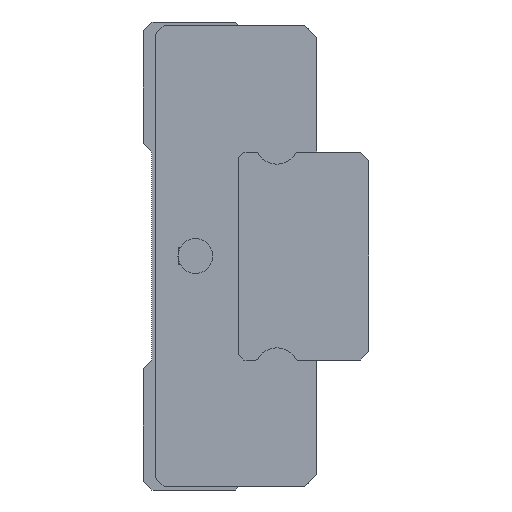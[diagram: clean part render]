
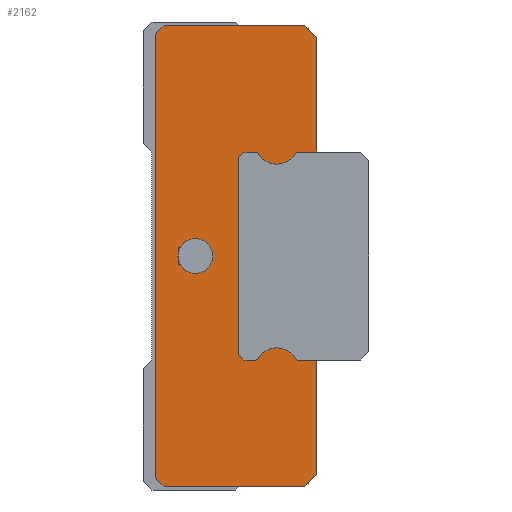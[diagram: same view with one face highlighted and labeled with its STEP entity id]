
A CAD part, left-side view. The second image highlights one B-rep face of the part: STEP entity #2162.
In plain terms, the highlighted planar face has unit normal (-1, 0, 0).
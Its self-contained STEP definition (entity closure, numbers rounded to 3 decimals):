
#92=CIRCLE('',#2370,1.);
#93=CIRCLE('',#2371,0.15);
#94=CIRCLE('',#2372,1.25);
#95=CIRCLE('',#2373,0.15);
#96=CIRCLE('',#2374,0.15);
#97=CIRCLE('',#2375,1.25);
#98=CIRCLE('',#2376,0.15);
#457=ORIENTED_EDGE('',*,*,#917,.T.);
#458=ORIENTED_EDGE('',*,*,#918,.T.);
#459=ORIENTED_EDGE('',*,*,#900,.F.);
#460=ORIENTED_EDGE('',*,*,#824,.F.);
#461=ORIENTED_EDGE('',*,*,#820,.F.);
#462=ORIENTED_EDGE('',*,*,#841,.F.);
#463=ORIENTED_EDGE('',*,*,#893,.F.);
#464=ORIENTED_EDGE('',*,*,#885,.F.);
#465=ORIENTED_EDGE('',*,*,#891,.F.);
#466=ORIENTED_EDGE('',*,*,#862,.F.);
#467=ORIENTED_EDGE('',*,*,#902,.F.);
#468=ORIENTED_EDGE('',*,*,#919,.F.);
#469=ORIENTED_EDGE('',*,*,#920,.T.);
#470=ORIENTED_EDGE('',*,*,#921,.F.);
#471=ORIENTED_EDGE('',*,*,#922,.T.);
#472=ORIENTED_EDGE('',*,*,#923,.T.);
#473=ORIENTED_EDGE('',*,*,#924,.T.);
#474=ORIENTED_EDGE('',*,*,#925,.T.);
#475=ORIENTED_EDGE('',*,*,#926,.T.);
#476=ORIENTED_EDGE('',*,*,#927,.T.);
#477=ORIENTED_EDGE('',*,*,#928,.T.);
#478=ORIENTED_EDGE('',*,*,#929,.F.);
#479=ORIENTED_EDGE('',*,*,#930,.T.);
#820=EDGE_CURVE('',#1094,#1095,#1268,.T.);
#824=EDGE_CURVE('',#1095,#1097,#1272,.T.);
#841=EDGE_CURVE('',#1110,#1094,#1289,.T.);
#862=EDGE_CURVE('',#1127,#1128,#1310,.T.);
#885=EDGE_CURVE('',#1145,#1146,#1333,.T.);
#891=EDGE_CURVE('',#1128,#1145,#1339,.T.);
#893=EDGE_CURVE('',#1146,#1110,#1341,.T.);
#900=EDGE_CURVE('',#1097,#1149,#1348,.T.);
#902=EDGE_CURVE('',#1150,#1127,#1350,.T.);
#917=EDGE_CURVE('',#1164,#1164,#92,.T.);
#918=EDGE_CURVE('',#1165,#1149,#1359,.T.);
#919=EDGE_CURVE('',#1166,#1150,#1360,.T.);
#920=EDGE_CURVE('',#1166,#1167,#93,.T.);
#921=EDGE_CURVE('',#1168,#1167,#94,.T.);
#922=EDGE_CURVE('',#1168,#1169,#95,.T.);
#923=EDGE_CURVE('',#1169,#1170,#1361,.T.);
#924=EDGE_CURVE('',#1170,#1171,#1362,.T.);
#925=EDGE_CURVE('',#1171,#1172,#1363,.T.);
#926=EDGE_CURVE('',#1172,#1173,#1364,.T.);
#927=EDGE_CURVE('',#1173,#1174,#1365,.T.);
#928=EDGE_CURVE('',#1174,#1175,#96,.T.);
#929=EDGE_CURVE('',#1176,#1175,#97,.T.);
#930=EDGE_CURVE('',#1176,#1165,#98,.T.);
#1094=VERTEX_POINT('',#3289);
#1095=VERTEX_POINT('',#3291);
#1097=VERTEX_POINT('',#3298);
#1110=VERTEX_POINT('',#3330);
#1127=VERTEX_POINT('',#3373);
#1128=VERTEX_POINT('',#3375);
#1145=VERTEX_POINT('',#3419);
#1146=VERTEX_POINT('',#3421);
#1149=VERTEX_POINT('',#3444);
#1150=VERTEX_POINT('',#3449);
#1164=VERTEX_POINT('',#3481);
#1165=VERTEX_POINT('',#3483);
#1166=VERTEX_POINT('',#3485);
#1167=VERTEX_POINT('',#3487);
#1168=VERTEX_POINT('',#3489);
#1169=VERTEX_POINT('',#3491);
#1170=VERTEX_POINT('',#3493);
#1171=VERTEX_POINT('',#3495);
#1172=VERTEX_POINT('',#3497);
#1173=VERTEX_POINT('',#3499);
#1174=VERTEX_POINT('',#3501);
#1175=VERTEX_POINT('',#3503);
#1176=VERTEX_POINT('',#3505);
#1268=LINE('',#3290,#1484);
#1272=LINE('',#3297,#1488);
#1289=LINE('',#3331,#1505);
#1310=LINE('',#3374,#1526);
#1333=LINE('',#3420,#1549);
#1339=LINE('',#3430,#1555);
#1341=LINE('',#3433,#1557);
#1348=LINE('',#3446,#1564);
#1350=LINE('',#3451,#1566);
#1359=LINE('',#3482,#1575);
#1360=LINE('',#3484,#1576);
#1361=LINE('',#3492,#1577);
#1362=LINE('',#3494,#1578);
#1363=LINE('',#3496,#1579);
#1364=LINE('',#3498,#1580);
#1365=LINE('',#3500,#1581);
#1484=VECTOR('',#2686,1000.);
#1488=VECTOR('',#2692,1000.);
#1505=VECTOR('',#2715,1000.);
#1526=VECTOR('',#2746,1000.);
#1549=VECTOR('',#2779,1000.);
#1555=VECTOR('',#2789,1000.);
#1557=VECTOR('',#2793,1000.);
#1564=VECTOR('',#2808,1000.);
#1566=VECTOR('',#2812,1000.);
#1575=VECTOR('',#2839,1000.);
#1576=VECTOR('',#2840,1000.);
#1577=VECTOR('',#2847,1000.);
#1578=VECTOR('',#2848,1000.);
#1579=VECTOR('',#2849,1000.);
#1580=VECTOR('',#2850,1000.);
#1581=VECTOR('',#2851,1000.);
#1763=EDGE_LOOP('',(#457));
#1764=EDGE_LOOP('',(#458,#459,#460,#461,#462,#463,#464,#465,#466,#467,#468,
#469,#470,#471,#472,#473,#474,#475,#476,#477,#478,#479));
#1939=FACE_BOUND('',#1763,.T.);
#1940=FACE_BOUND('',#1764,.T.);
#2051=PLANE('',#2369);
#2162=ADVANCED_FACE('',(#1939,#1940),#2051,.F.);
#2369=AXIS2_PLACEMENT_3D('',#3479,#2835,#2836);
#2370=AXIS2_PLACEMENT_3D('',#3480,#2837,#2838);
#2371=AXIS2_PLACEMENT_3D('',#3486,#2841,#2842);
#2372=AXIS2_PLACEMENT_3D('',#3488,#2843,#2844);
#2373=AXIS2_PLACEMENT_3D('',#3490,#2845,#2846);
#2374=AXIS2_PLACEMENT_3D('',#3502,#2852,#2853);
#2375=AXIS2_PLACEMENT_3D('',#3504,#2854,#2855);
#2376=AXIS2_PLACEMENT_3D('',#3506,#2856,#2857);
#2686=DIRECTION('',(0.,-1.,0.));
#2692=DIRECTION('',(0.,-0.707,-0.707));
#2715=DIRECTION('',(0.,-0.707,0.707));
#2746=DIRECTION('',(0.,0.707,-0.707));
#2779=DIRECTION('',(0.,0.707,0.707));
#2789=DIRECTION('',(0.,1.,0.));
#2793=DIRECTION('',(0.,0.,1.));
#2808=DIRECTION('',(0.,0.,-1.));
#2812=DIRECTION('',(0.,0.,-1.));
#2835=DIRECTION('',(1.,0.,0.));
#2836=DIRECTION('',(0.,0.,-1.));
#2837=DIRECTION('',(1.,0.,0.));
#2838=DIRECTION('',(0.,0.,-1.));
#2839=DIRECTION('',(0.,-1.,0.));
#2840=DIRECTION('',(0.,-1.,0.));
#2841=DIRECTION('',(1.,0.,0.));
#2842=DIRECTION('',(0.,0.,-1.));
#2843=DIRECTION('',(1.,0.,0.));
#2844=DIRECTION('',(0.,0.,-1.));
#2845=DIRECTION('',(1.,0.,0.));
#2846=DIRECTION('',(0.,0.,-1.));
#2847=DIRECTION('',(0.,1.,0.));
#2848=DIRECTION('',(0.,0.707,0.707));
#2849=DIRECTION('',(0.,0.,1.));
#2850=DIRECTION('',(0.,-0.707,0.707));
#2851=DIRECTION('',(0.,-1.,0.));
#2852=DIRECTION('',(1.,0.,0.));
#2853=DIRECTION('',(0.,0.,-1.));
#2854=DIRECTION('',(1.,0.,0.));
#2855=DIRECTION('',(0.,0.,-1.));
#2856=DIRECTION('',(1.,0.,0.));
#2857=DIRECTION('',(0.,0.,-1.));
#3289=CARTESIAN_POINT('',(-12.8,8.8,13.3));
#3290=CARTESIAN_POINT('',(-12.8,8.8,13.3));
#3291=CARTESIAN_POINT('',(-12.8,0.7,13.3));
#3297=CARTESIAN_POINT('',(-12.8,0.7,13.3));
#3298=CARTESIAN_POINT('',(-12.8,0.,12.6));
#3330=CARTESIAN_POINT('',(-12.8,9.3,12.8));
#3331=CARTESIAN_POINT('',(-12.8,9.3,12.8));
#3373=CARTESIAN_POINT('',(-12.8,0.,-12.6));
#3374=CARTESIAN_POINT('',(-12.8,0.,-12.6));
#3375=CARTESIAN_POINT('',(-12.8,0.7,-13.3));
#3419=CARTESIAN_POINT('',(-12.8,8.8,-13.3));
#3420=CARTESIAN_POINT('',(-12.8,8.8,-13.3));
#3421=CARTESIAN_POINT('',(-12.8,9.3,-12.8));
#3430=CARTESIAN_POINT('',(-12.8,0.7,-13.3));
#3433=CARTESIAN_POINT('',(-12.8,9.3,-12.8));
#3444=CARTESIAN_POINT('',(-12.8,0.,6.));
#3446=CARTESIAN_POINT('',(-12.8,0.,12.6));
#3449=CARTESIAN_POINT('',(-12.8,0.,-6.));
#3451=CARTESIAN_POINT('',(-12.8,0.,12.6));
#3479=CARTESIAN_POINT('',(-12.8,0.,0.));
#3480=CARTESIAN_POINT('',(-12.8,7.,0.));
#3481=CARTESIAN_POINT('',(-12.8,7.,-1.));
#3482=CARTESIAN_POINT('',(-12.8,1.088,6.));
#3483=CARTESIAN_POINT('',(-12.8,1.088,6.));
#3484=CARTESIAN_POINT('',(-12.8,0.,-6.));
#3485=CARTESIAN_POINT('',(-12.8,1.088,-6.));
#3486=CARTESIAN_POINT('',(-12.8,1.088,-5.85));
#3487=CARTESIAN_POINT('',(-12.8,1.217,-5.925));
#3488=CARTESIAN_POINT('',(-12.8,2.3,-6.55));
#3489=CARTESIAN_POINT('',(-12.8,3.383,-5.925));
#3490=CARTESIAN_POINT('',(-12.8,3.512,-5.85));
#3491=CARTESIAN_POINT('',(-12.8,3.512,-6.));
#3492=CARTESIAN_POINT('',(-12.8,3.512,-6.));
#3493=CARTESIAN_POINT('',(-12.8,4.2,-6.));
#3494=CARTESIAN_POINT('',(-12.8,4.2,-6.));
#3495=CARTESIAN_POINT('',(-12.8,4.5,-5.7));
#3496=CARTESIAN_POINT('',(-12.8,4.5,-5.7));
#3497=CARTESIAN_POINT('',(-12.8,4.5,5.7));
#3498=CARTESIAN_POINT('',(-12.8,4.5,5.7));
#3499=CARTESIAN_POINT('',(-12.8,4.2,6.));
#3500=CARTESIAN_POINT('',(-12.8,4.2,6.));
#3501=CARTESIAN_POINT('',(-12.8,3.512,6.));
#3502=CARTESIAN_POINT('',(-12.8,3.512,5.85));
#3503=CARTESIAN_POINT('',(-12.8,3.383,5.925));
#3504=CARTESIAN_POINT('',(-12.8,2.3,6.55));
#3505=CARTESIAN_POINT('',(-12.8,1.217,5.925));
#3506=CARTESIAN_POINT('',(-12.8,1.088,5.85));
